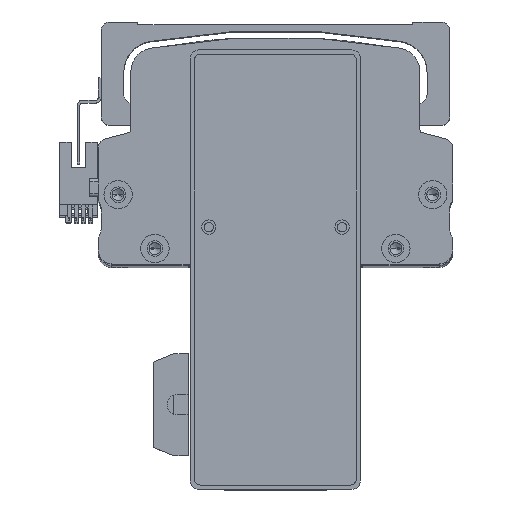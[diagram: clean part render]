
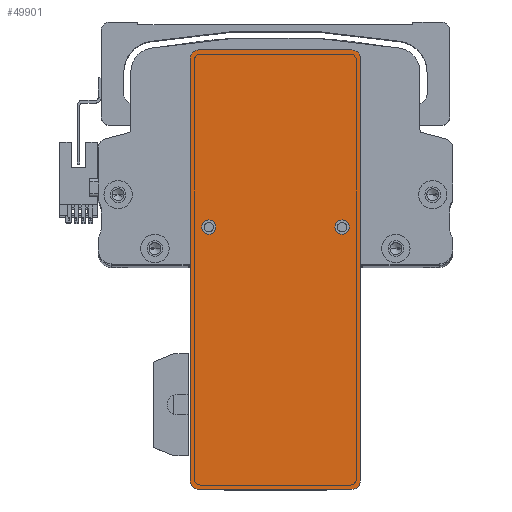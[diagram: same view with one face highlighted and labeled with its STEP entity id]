
A CAD part, top view. The second image highlights one B-rep face of the part: STEP entity #49901.
In plain terms, the highlighted planar face has unit normal (0, 0, 1) as drawn and (0, 0, -1) by its records, which use the part's own axes.
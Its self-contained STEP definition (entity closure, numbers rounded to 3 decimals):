
#52 = DIRECTION ( 'NONE',  ( 0., 1., 0. ) ) ;
#1203 = ORIENTED_EDGE ( 'NONE', *, *, #60920, .F. ) ;
#2860 = LINE ( 'NONE', #67473, #49868 ) ;
#3444 = CARTESIAN_POINT ( 'NONE',  ( 17.5, -23.5, 0. ) ) ;
#3835 = DIRECTION ( 'NONE',  ( 0., -1., 0. ) ) ;
#4087 = CARTESIAN_POINT ( 'NONE',  ( 15., 23.5, 0. ) ) ;
#5575 = EDGE_CURVE ( 'NONE', #71308, #79035, #5774, .T. ) ;
#5753 = DIRECTION ( 'NONE',  ( 0., 0., -1. ) ) ;
#5774 = CIRCLE ( 'NONE', #13113, 2.5 ) ;
#6058 = ORIENTED_EDGE ( 'NONE', *, *, #36992, .F. ) ;
#7287 = VERTEX_POINT ( 'NONE', #21947 ) ;
#7797 = EDGE_CURVE ( 'NONE', #18389, #40703, #30129, .T. ) ;
#10086 = CARTESIAN_POINT ( 'NONE',  ( -77.5, 27., 0. ) ) ;
#10246 = DIRECTION ( 'NONE',  ( -1., 0., 0. ) ) ;
#11937 = ORIENTED_EDGE ( 'NONE', *, *, #47876, .F. ) ;
#12162 = CARTESIAN_POINT ( 'NONE',  ( 77.5, 27., 0. ) ) ;
#12639 = ORIENTED_EDGE ( 'NONE', *, *, #36121, .T. ) ;
#13113 = AXIS2_PLACEMENT_3D ( 'NONE', #14239, #57171, #20405 ) ;
#13683 = FACE_BOUND ( 'NONE', #73658, .T. ) ;
#13920 = CARTESIAN_POINT ( 'NONE',  ( 77.5, -27., 0. ) ) ;
#13930 = CARTESIAN_POINT ( 'NONE',  ( -74.5, -27., 0. ) ) ;
#14239 = CARTESIAN_POINT ( 'NONE',  ( 15., 23.5, 0. ) ) ;
#14537 = CARTESIAN_POINT ( 'NONE',  ( 15., -23.5, 0. ) ) ;
#14743 = CIRCLE ( 'NONE', #28876, 3. ) ;
#16855 = AXIS2_PLACEMENT_3D ( 'NONE', #21054, #63933, #27190 ) ;
#17185 = CARTESIAN_POINT ( 'NONE',  ( 77.5, -30., 0. ) ) ;
#18192 = CARTESIAN_POINT ( 'NONE',  ( 77.5, -30., 0. ) ) ;
#18197 = VERTEX_POINT ( 'NONE', #49554 ) ;
#18389 = VERTEX_POINT ( 'NONE', #63921 ) ;
#19865 = EDGE_LOOP ( 'NONE', ( #27447, #6058 ) ) ;
#20098 = DIRECTION ( 'NONE',  ( 1., 0., 0. ) ) ;
#20405 = DIRECTION ( 'NONE',  ( -1., 0., 0. ) ) ;
#20438 = CIRCLE ( 'NONE', #43776, 3. ) ;
#20715 = DIRECTION ( 'NONE',  ( -1., 0., 0. ) ) ;
#20953 = DIRECTION ( 'NONE',  ( 0., 0., 1. ) ) ;
#21054 = CARTESIAN_POINT ( 'NONE',  ( 74.5, 27., 0. ) ) ;
#21432 = DIRECTION ( 'NONE',  ( 0., 0., -1. ) ) ;
#21481 = EDGE_CURVE ( 'NONE', #42846, #7287, #61760, .T. ) ;
#21775 = CARTESIAN_POINT ( 'NONE',  ( -74.5, -30., 0. ) ) ;
#21947 = CARTESIAN_POINT ( 'NONE',  ( -77.5, -27., 0. ) ) ;
#22197 = ORIENTED_EDGE ( 'NONE', *, *, #40048, .F. ) ;
#22299 = CARTESIAN_POINT ( 'NONE',  ( -77.5, -30., 0. ) ) ;
#25886 = AXIS2_PLACEMENT_3D ( 'NONE', #57703, #20953, #63835 ) ;
#25954 = ORIENTED_EDGE ( 'NONE', *, *, #61581, .T. ) ;
#26416 = EDGE_CURVE ( 'NONE', #74115, #55440, #78265, .T. ) ;
#27190 = DIRECTION ( 'NONE',  ( 1., 0., 0. ) ) ;
#27402 = CARTESIAN_POINT ( 'NONE',  ( 12.5, 23.5, 0. ) ) ;
#27434 = LINE ( 'NONE', #22299, #60084 ) ;
#27447 = ORIENTED_EDGE ( 'NONE', *, *, #5575, .F. ) ;
#27947 = AXIS2_PLACEMENT_3D ( 'NONE', #4087, #46967, #10246 ) ;
#28033 = FACE_BOUND ( 'NONE', #19865, .T. ) ;
#28876 = AXIS2_PLACEMENT_3D ( 'NONE', #58157, #21432, #64298 ) ;
#30129 = CIRCLE ( 'NONE', #16855, 3. ) ;
#30672 = DIRECTION ( 'NONE',  ( -1., 0., 0. ) ) ;
#31053 = CARTESIAN_POINT ( 'NONE',  ( 12.5, -23.5, 0. ) ) ;
#31890 = ORIENTED_EDGE ( 'NONE', *, *, #26416, .F. ) ;
#32109 = CIRCLE ( 'NONE', #27947, 2.5 ) ;
#33359 = AXIS2_PLACEMENT_3D ( 'NONE', #14537, #57461, #20715 ) ;
#33794 = EDGE_CURVE ( 'NONE', #55440, #74115, #63092, .T. ) ;
#35389 = DIRECTION ( 'NONE',  ( 0., 0., -1. ) ) ;
#36038 = ORIENTED_EDGE ( 'NONE', *, *, #57015, .F. ) ;
#36121 = EDGE_CURVE ( 'NONE', #43302, #18197, #14743, .T. ) ;
#36992 = EDGE_CURVE ( 'NONE', #79035, #71308, #32109, .T. ) ;
#37459 = ORIENTED_EDGE ( 'NONE', *, *, #33794, .F. ) ;
#40048 = EDGE_CURVE ( 'NONE', #18389, #53449, #2860, .T. ) ;
#40703 = VERTEX_POINT ( 'NONE', #12162 ) ;
#41201 = VECTOR ( 'NONE', #52, 1000. ) ;
#41623 = DIRECTION ( 'NONE',  ( 1., 0., 0. ) ) ;
#42469 = CARTESIAN_POINT ( 'NONE',  ( 15., -23.5, 0. ) ) ;
#42577 = AXIS2_PLACEMENT_3D ( 'NONE', #42469, #5753, #48655 ) ;
#42846 = VERTEX_POINT ( 'NONE', #21775 ) ;
#43302 = VERTEX_POINT ( 'NONE', #13920 ) ;
#43776 = AXIS2_PLACEMENT_3D ( 'NONE', #72109, #35389, #78273 ) ;
#45652 = AXIS2_PLACEMENT_3D ( 'NONE', #13930, #56882, #20098 ) ;
#46967 = DIRECTION ( 'NONE',  ( 0., 0., -1. ) ) ;
#47876 = EDGE_CURVE ( 'NONE', #78703, #7287, #27434, .T. ) ;
#48655 = DIRECTION ( 'NONE',  ( -1., 0., 0. ) ) ;
#49554 = CARTESIAN_POINT ( 'NONE',  ( 74.5, -30., 0. ) ) ;
#49868 = VECTOR ( 'NONE', #30672, 1000. ) ;
#49901 = ADVANCED_FACE ( 'NONE', ( #28033, #13683, #76971 ), #69726, .F. ) ;
#51373 = LINE ( 'NONE', #17185, #67589 ) ;
#53449 = VERTEX_POINT ( 'NONE', #62880 ) ;
#55440 = VERTEX_POINT ( 'NONE', #31053 ) ;
#56035 = EDGE_LOOP ( 'NONE', ( #36038, #12639, #1203, #78667, #11937, #25954, #22197, #68252 ) ) ;
#56882 = DIRECTION ( 'NONE',  ( 0., 0., -1. ) ) ;
#57015 = EDGE_CURVE ( 'NONE', #43302, #40703, #57520, .T. ) ;
#57171 = DIRECTION ( 'NONE',  ( 0., 0., -1. ) ) ;
#57461 = DIRECTION ( 'NONE',  ( 0., 0., -1. ) ) ;
#57520 = LINE ( 'NONE', #18192, #41201 ) ;
#57703 = CARTESIAN_POINT ( 'NONE',  ( 0., 0., 0. ) ) ;
#58157 = CARTESIAN_POINT ( 'NONE',  ( 74.5, -27., 0. ) ) ;
#60084 = VECTOR ( 'NONE', #3835, 1000. ) ;
#60920 = EDGE_CURVE ( 'NONE', #42846, #18197, #51373, .T. ) ;
#61581 = EDGE_CURVE ( 'NONE', #78703, #53449, #20438, .T. ) ;
#61760 = CIRCLE ( 'NONE', #45652, 3. ) ;
#62880 = CARTESIAN_POINT ( 'NONE',  ( -74.5, 30., 0. ) ) ;
#63092 = CIRCLE ( 'NONE', #33359, 2.5 ) ;
#63835 = DIRECTION ( 'NONE',  ( 1., 0., 0. ) ) ;
#63921 = CARTESIAN_POINT ( 'NONE',  ( 74.5, 30., 0. ) ) ;
#63933 = DIRECTION ( 'NONE',  ( 0., 0., -1. ) ) ;
#64298 = DIRECTION ( 'NONE',  ( 1., 0., 0. ) ) ;
#65409 = CARTESIAN_POINT ( 'NONE',  ( 17.5, 23.5, 0. ) ) ;
#67473 = CARTESIAN_POINT ( 'NONE',  ( 77.5, 30., 0. ) ) ;
#67589 = VECTOR ( 'NONE', #41623, 1000. ) ;
#68252 = ORIENTED_EDGE ( 'NONE', *, *, #7797, .T. ) ;
#69726 = PLANE ( 'NONE',  #25886 ) ;
#71308 = VERTEX_POINT ( 'NONE', #27402 ) ;
#72109 = CARTESIAN_POINT ( 'NONE',  ( -74.5, 27., 0. ) ) ;
#73658 = EDGE_LOOP ( 'NONE', ( #37459, #31890 ) ) ;
#74115 = VERTEX_POINT ( 'NONE', #3444 ) ;
#76971 = FACE_OUTER_BOUND ( 'NONE', #56035, .T. ) ;
#78265 = CIRCLE ( 'NONE', #42577, 2.5 ) ;
#78273 = DIRECTION ( 'NONE',  ( 1., 0., 0. ) ) ;
#78667 = ORIENTED_EDGE ( 'NONE', *, *, #21481, .T. ) ;
#78703 = VERTEX_POINT ( 'NONE', #10086 ) ;
#79035 = VERTEX_POINT ( 'NONE', #65409 ) ;
